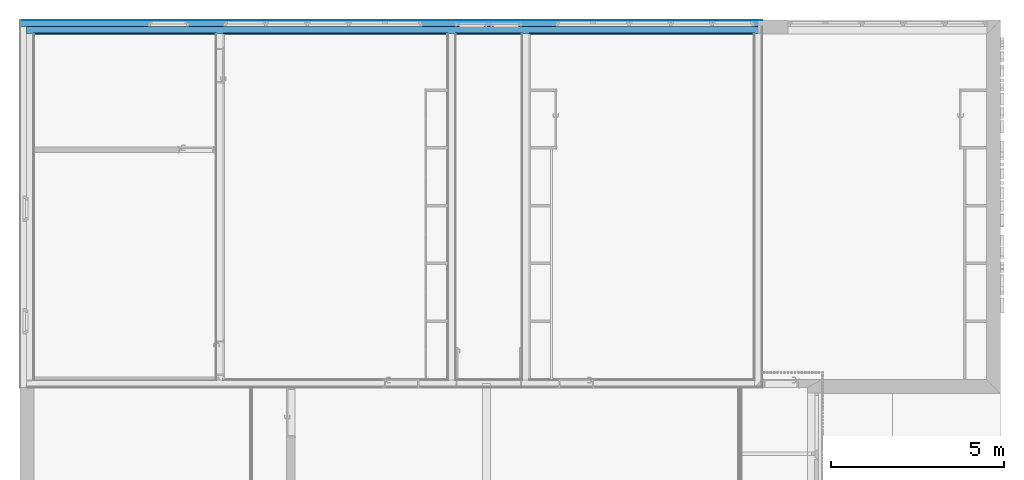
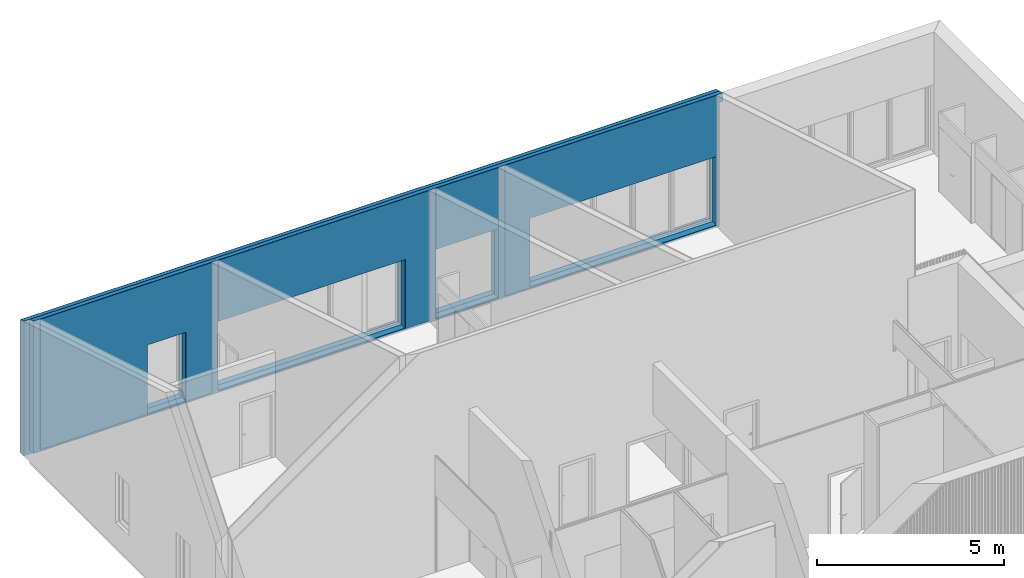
# One storey, part 18 of 34: 4 building element parts, 4 openings, 1 element without a shape of its own.
"""IFC2X3 building model written with IfcOpenShell, lengths in metres."""

from ifc_helpers import new_model, entity, si_unit, converted_unit, derived_unit, money_unit, direction, frame, origin_with_axes, origin_2d_with_axis, place, context, subcontext, project, spatial, polyline, rectangle, outline, extrude, boolean, faceted_brep, material, type_object, element, aggregate, save


model = new_model("IFC2X3")

# Units and contexts
model_context = context("Model", 3, precision=1e-05, world=origin_with_axes(), true_north=direction((0.0, 1.0)))
body_context = subcontext(model_context, "Body", "Model", "MODEL_VIEW")
ifc_project = project(units=[si_unit("LENGTHUNIT", "METRE"), si_unit("AREAUNIT", "SQUARE_METRE"), si_unit("VOLUMEUNIT", "CUBIC_METRE"), converted_unit("PLANEANGLEUNIT", "DEGREE", entity("IfcPlaneAngleMeasure", 0.0174532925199), si_unit("PLANEANGLEUNIT", "RADIAN"), dimensions=[0, 0, 0, 0, 0, 0, 0]), money_unit("CHF"), converted_unit("TIMEUNIT", "Year", entity("IfcTimeMeasure", 31556926.0), si_unit("TIMEUNIT", "SECOND"), dimensions=[0, 0, 1, 0, 0, 0, 0]), si_unit("MASSUNIT", "GRAM", prefix="KILO"), si_unit("THERMODYNAMICTEMPERATUREUNIT", "DEGREE_CELSIUS"), si_unit("LUMINOUSINTENSITYUNIT", "LUMEN"), si_unit("ENERGYUNIT", "JOULE", prefix="MEGA"), derived_unit("THERMALCONDUCTANCEUNIT", [(si_unit("POWERUNIT", "WATT"), 1), (si_unit("LENGTHUNIT", "METRE"), -1), (si_unit("THERMODYNAMICTEMPERATUREUNIT", "KELVIN"), -1)]), derived_unit("SPECIFICHEATCAPACITYUNIT", [(si_unit("ENERGYUNIT", "JOULE"), 1), (si_unit("MASSUNIT", "GRAM", prefix="KILO"), -1), (si_unit("THERMODYNAMICTEMPERATUREUNIT", "KELVIN"), -1)]), derived_unit("MASSDENSITYUNIT", [(si_unit("MASSUNIT", "GRAM", prefix="KILO"), 1), (si_unit("VOLUMEUNIT", "CUBIC_METRE"), -1)])], contexts=[model_context])

# Site, building, storey
site_placement = place(None, origin_with_axes())
site = spatial("IfcSite", under=ifc_project, at=site_placement, Name="Site", CompositionType="ELEMENT")
building_placement = place(site_placement, origin_with_axes())
building = spatial("IfcBuilding", under=site, at=building_placement, Name="Bâtiment", CompositionType="ELEMENT")
storey_placement = place(building_placement, origin_with_axes())
storey = spatial("IfcBuildingStorey", under=building, at=storey_placement, Name="Rez-de-chaussée", CompositionType="ELEMENT", Elevation=0.0)

# Wall, openings, building element parts
wall_type = type_object("IfcWallType", Name="Mur 20cm + iso 18 + enduit  410", PredefinedType="NOTDEFINED")
wall_placement = place(storey_placement, frame((11.1494697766, 25.2201256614, -0.21), z_axis=(0.0, 0.0, 1.0), x_axis=(1.0, 0.0, 0.0)))
wall = element("IfcWall", 1, at=wall_placement, inside=storey, type_object=wall_type, Name="Mur ext 20+18isolant")
opening_1_placement = place(wall_placement, frame((18.07, 0.0, 0.21), z_axis=(0.0, 0.0, 1.0), x_axis=(1.0, 0.0, 0.0)))
element("IfcOpeningElement", 2, at=opening_1_placement, cuts=wall, Name="FENETRE-005", context=body_context, shape_type="SweptSolid", body=[
    extrude(rectangle(XDim=5.76, YDim=2.25, at=origin_2d_with_axis()), frame((0.0, 0.2, 1.125), z_axis=(0.0, 1.0, 0.0), x_axis=(1.0, 0.0, 0.0)), (0.0, 0.0, -1.0), 0.73),
    extrude(rectangle(XDim=5.76, YDim=2.25, at=origin_2d_with_axis()), frame((0.0, 0.2, 1.125), z_axis=(0.0, -1.0, 0.0), x_axis=(1.0, 0.0, 0.0)), (0.0, 0.0, -1.0), 0.5),
])
opening_2_placement = place(wall_placement, frame((8.47, 0.0, 0.21), z_axis=(0.0, 0.0, 1.0), x_axis=(1.0, 0.0, 0.0)))
element("IfcOpeningElement", 3, at=opening_2_placement, cuts=wall, Name="FENETRE-005", context=body_context, shape_type="SweptSolid", body=[
    extrude(rectangle(XDim=5.76, YDim=2.25, at=origin_2d_with_axis()), frame((0.0, 0.2, 1.125), z_axis=(0.0, -1.0, 0.0), x_axis=(-1.0, 0.0, 0.0)), (0.0, 0.0, 1.0), 0.73),
    extrude(rectangle(XDim=5.76, YDim=2.25, at=origin_2d_with_axis()), frame((0.0, 0.2, 1.125), z_axis=(0.0, 1.0, 0.0), x_axis=(-1.0, 0.0, 0.0)), (0.0, 0.0, 1.0), 0.5),
])
opening_3_placement = place(wall_placement, frame((4.0, 0.0, 0.21), z_axis=(0.0, 0.0, 1.0), x_axis=(1.0, 0.0, 0.0)))
element("IfcOpeningElement", 4, at=opening_3_placement, cuts=wall, Name="FENETRE-005", context=body_context, shape_type="SweptSolid", body=[
    extrude(rectangle(XDim=1.18, YDim=2.25, at=origin_2d_with_axis()), frame((0.0, 0.2, 1.125), z_axis=(0.0, -1.0, 0.0), x_axis=(-1.0, 0.0, 0.0)), (0.0, 0.0, 1.0), 0.73),
    extrude(rectangle(XDim=1.18, YDim=2.25, at=origin_2d_with_axis()), frame((0.0, 0.2, 1.125), z_axis=(0.0, 1.0, 0.0), x_axis=(-1.0, 0.0, 0.0)), (0.0, 0.0, 1.0), 0.5),
])
opening_4_placement = place(wall_placement, frame((13.2600628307, 0.0, 0.21), z_axis=(0.0, 0.0, 1.0), x_axis=(1.0, 0.0, 0.0)))
element("IfcOpeningElement", 5, at=opening_4_placement, cuts=wall, Name="PORTE-PP90 A2 - PF1/2H", context=body_context, shape_type="SweptSolid", body=[
    extrude(rectangle(XDim=1.93987433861, YDim=2.25, at=origin_2d_with_axis()), frame((0.0, 0.2, 1.125), z_axis=(0.0, 1.0, 0.0), x_axis=(1.0, 0.0, 0.0)), (0.0, 0.0, -1.0), 0.73),
    extrude(rectangle(XDim=1.93987433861, YDim=2.25, at=origin_2d_with_axis()), frame((0.0, 0.2, 1.125), z_axis=(0.0, -1.0, 0.0), x_axis=(1.0, 0.0, 0.0)), (0.0, 0.0, -1.0), 0.5),
])
ifc_material_1 = material(Name="Finition int - Enduit plâtre")
building_element_part_1_placement = place(wall_placement, origin_with_axes())
building_element_part_1 = element("IfcBuildingElementPart", 6, at=building_element_part_1_placement, material=ifc_material_1, Name="Finition int - Enduit plâtre", context=body_context, shape_type="CSG", body=[
    boolean("DIFFERENCE", boolean("DIFFERENCE", boolean("DIFFERENCE", boolean("DIFFERENCE", boolean("DIFFERENCE", boolean("DIFFERENCE", extrude(outline(polyline([(-0.29, -0.12), (21.17, -0.12), (21.17, -0.1), (-0.29, -0.1), (-0.29, -0.12)])), origin_with_axes(), (0.0, 0.0, 1.0), 5.17), faceted_brep([(-0.29, -0.12, 5.17), (-0.29, -0.12, 0.0), (21.17, -0.12, 0.0), (21.17, -0.12, 5.17), (14.43, -0.12, 0.2), (14.43, -0.12, 4.45417566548), (20.95, -0.12, 4.45417566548), (20.95, -0.12, 0.2), (12.29, -0.12, 0.2), (12.29, -0.12, 4.45417566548), (14.23, -0.12, 4.45417566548), (14.23, -0.12, 0.2), (5.59, -0.12, 0.2), (5.59, -0.12, 4.45417566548), (12.09, -0.12, 4.45417566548), (12.09, -0.12, 0.2), (0.1, -0.12, 0.2), (0.1, -0.12, 4.45417566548), (5.39, -0.12, 4.45417566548), (5.39, -0.12, 0.2), (-0.29, -0.1, 5.17), (-0.29, -0.1, 0.0), (21.17, -0.1, 0.0), (21.17, -0.1, 5.17), (14.43, -0.1, 0.2), (14.43, -0.1, 4.44817566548), (20.95, -0.1, 4.44817566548), (20.95, -0.1, 0.2), (12.29, -0.1, 0.2), (12.29, -0.1, 4.44817566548), (14.23, -0.1, 4.44817566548), (14.23, -0.1, 0.2), (5.59, -0.1, 0.2), (5.59, -0.1, 4.44817566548), (12.09, -0.1, 4.44817566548), (12.09, -0.1, 0.2), (0.1, -0.1, 0.2), (0.1, -0.1, 4.44817566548), (5.39, -0.1, 4.44817566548), (5.39, -0.1, 0.2)], [[[0, 1, 2, 3], [4, 5, 6, 7], [8, 9, 10, 11], [12, 13, 14, 15], [16, 17, 18, 19]], [[20, 21, 1, 0]], [[2, 1, 21, 22]], [[3, 2, 22, 23]], [[20, 0, 3, 23]], [[24, 25, 5, 4]], [[25, 26, 6, 5]], [[26, 27, 7, 6]], [[27, 24, 4, 7]], [[28, 29, 9, 8]], [[29, 30, 10, 9]], [[30, 31, 11, 10]], [[31, 28, 8, 11]], [[32, 33, 13, 12]], [[33, 34, 14, 13]], [[34, 35, 15, 14]], [[35, 32, 12, 15]], [[36, 37, 17, 16]], [[37, 38, 18, 17]], [[38, 39, 19, 18]], [[39, 36, 16, 19]], [[23, 22, 21, 20], [24, 27, 26, 25], [28, 31, 30, 29], [32, 35, 34, 33], [36, 39, 38, 37]]])), faceted_brep([(-0.29, -0.1, 5.17), (-0.29, -0.1, 0.0), (21.17, -0.1, 0.0), (21.17, -0.1, 5.17), (14.43, -0.1, 4.44817566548), (20.95, -0.1, 4.44817566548), (21.15, -0.1, 4.44817566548), (21.15, -0.1, 4.17), (21.05, -0.1, 4.17), (21.05, -0.1, 0.13), (-0.1, -0.1, 0.13), (-0.1, -0.1, 4.44817566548), (0.1, -0.1, 4.44817566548), (5.39, -0.1, 4.44817566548), (5.59, -0.1, 4.44817566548), (12.09, -0.1, 4.44817566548), (12.29, -0.1, 4.44817566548), (14.23, -0.1, 4.44817566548), (-0.29, 0.1, 5.17), (-0.29, 0.1, 0.0), (21.17, 0.1, 0.0), (21.17, 0.1, 5.17), (-0.1, 0.1, 4.38817566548), (21.15, 0.1, 4.38817566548), (21.15, 0.1, 4.17), (21.05, 0.1, 4.17), (21.05, 0.1, 0.13), (-0.1, 0.1, 0.13)], [[[0, 1, 2, 3], [4, 5, 6, 7, 8, 9, 10, 11, 12, 13, 14, 15, 16, 17]], [[18, 19, 1, 0]], [[2, 1, 19, 20]], [[3, 2, 20, 21]], [[18, 0, 3, 21]], [[22, 23, 6, 5, 4, 17, 16, 15, 14, 13, 12, 11]], [[23, 24, 7, 6]], [[24, 25, 8, 7]], [[25, 26, 9, 8]], [[26, 27, 10, 9]], [[27, 22, 11, 10]], [[21, 20, 19, 18], [25, 24, 23, 22, 27, 26]]])), faceted_brep([(21.05, 0.28, 0.13), (21.05, 0.28, 4.17), (21.17, 0.28, 4.17), (21.17, 0.28, 0.0), (21.05, 0.28, 0.0), (21.05, 0.1, 0.13), (21.05, 0.1, 4.17), (21.17, 0.1, 4.17), (21.15, 0.1, 4.17), (21.17, 0.1, 0.0), (21.05, 0.1, 0.0)], [[[0, 1, 2, 3, 4]], [[1, 0, 5, 6]], [[7, 2, 1, 6, 8]], [[2, 7, 9, 3]], [[10, 4, 3, 9]], [[4, 10, 5, 0]], [[5, 10, 9, 7, 8, 6]]])), faceted_brep([(21.17, 0.1, 4.38817566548), (21.17, 0.28, 4.33417566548), (21.17, 0.28, 5.17), (21.17, 0.1, 5.17), (-0.28, 0.28, 4.33417566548), (21.15, 0.1, 4.38817566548), (-0.1, 0.1, 4.38817566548), (-0.28, 0.1, 4.38817566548), (-0.28, 0.28, 0.0), (-0.29, 0.28, 0.0), (-0.29, 0.28, 5.17), (-0.29, 0.1, 5.17), (-0.29, 0.1, 0.0), (-0.28, 0.1, 0.0)], [[[0, 1, 2, 3]], [[4, 1, 0, 5, 6, 7]], [[4, 8, 9, 10, 2, 1]], [[10, 11, 3, 2]], [[5, 0, 3, 11, 12, 13, 7, 6]], [[8, 4, 7, 13]], [[8, 13, 12, 9]], [[10, 9, 12, 11]]])), faceted_brep([(21.05, 0.29, 0.13), (21.05, 0.290000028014, 4.17), (21.17, 0.290000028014, 4.17), (21.17, 0.29, 0.0), (21.05, 0.29, 0.0), (21.05, 0.28, 0.13), (21.05, 0.28, 4.17), (21.17, 0.28, 4.17), (21.17, 0.28, 0.0), (21.05, 0.28, 0.0)], [[[0, 1, 2, 3, 4]], [[1, 0, 5, 6]], [[7, 2, 1, 6]], [[2, 7, 8, 3]], [[9, 4, 3, 8]], [[0, 4, 9, 5]], [[5, 9, 8, 7, 6]]])), faceted_brep([(21.17, 0.28, 4.33417566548), (21.17, 0.290000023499, 4.33117565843), (21.17, 0.29, 5.17), (21.17, 0.28, 5.17), (-0.290000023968, 0.29, 4.33117566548), (-0.28, 0.28, 4.33417566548), (-0.290000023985, 0.28, 4.33417566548), (-0.29, 0.29, 5.17), (-0.29, 0.28, 5.17)], [[[0, 1, 2, 3]], [[4, 1, 0, 5, 6]], [[1, 4, 7, 2]], [[7, 8, 3, 2]], [[5, 0, 3, 8, 6]], [[4, 6, 8, 7]]])),
])
ifc_material_2 = material(Name="Béton armé (Coulé)")
building_element_part_2_placement = place(wall_placement, origin_with_axes())
building_element_part_2 = element("IfcBuildingElementPart", 7, at=building_element_part_2_placement, material=ifc_material_2, Name="Béton armé (Coulé)", context=body_context, shape_type="CSG", body=[
    boolean("DIFFERENCE", boolean("DIFFERENCE", boolean("DIFFERENCE", boolean("DIFFERENCE", boolean("DIFFERENCE", boolean("DIFFERENCE", extrude(outline(polyline([(-0.29, -0.1), (21.17, -0.1), (21.17, 0.1), (-0.29, 0.1), (-0.29, -0.1)])), origin_with_axes(), (0.0, 0.0, 1.0), 5.17), faceted_brep([(-0.29, -0.12, 5.17), (-0.29, -0.12, 0.0), (21.17, -0.12, 0.0), (21.17, -0.12, 5.17), (14.43, -0.12, 0.2), (14.43, -0.12, 4.45417566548), (20.95, -0.12, 4.45417566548), (20.95, -0.12, 0.2), (12.29, -0.12, 0.2), (12.29, -0.12, 4.45417566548), (14.23, -0.12, 4.45417566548), (14.23, -0.12, 0.2), (5.59, -0.12, 0.2), (5.59, -0.12, 4.45417566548), (12.09, -0.12, 4.45417566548), (12.09, -0.12, 0.2), (0.1, -0.12, 0.2), (0.1, -0.12, 4.45417566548), (5.39, -0.12, 4.45417566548), (5.39, -0.12, 0.2), (-0.29, -0.1, 5.17), (-0.29, -0.1, 0.0), (21.17, -0.1, 0.0), (21.17, -0.1, 5.17), (14.43, -0.1, 0.2), (14.43, -0.1, 4.44817566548), (20.95, -0.1, 4.44817566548), (20.95, -0.1, 0.2), (12.29, -0.1, 0.2), (12.29, -0.1, 4.44817566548), (14.23, -0.1, 4.44817566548), (14.23, -0.1, 0.2), (5.59, -0.1, 0.2), (5.59, -0.1, 4.44817566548), (12.09, -0.1, 4.44817566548), (12.09, -0.1, 0.2), (0.1, -0.1, 0.2), (0.1, -0.1, 4.44817566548), (5.39, -0.1, 4.44817566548), (5.39, -0.1, 0.2)], [[[0, 1, 2, 3], [4, 5, 6, 7], [8, 9, 10, 11], [12, 13, 14, 15], [16, 17, 18, 19]], [[20, 21, 1, 0]], [[2, 1, 21, 22]], [[3, 2, 22, 23]], [[20, 0, 3, 23]], [[24, 25, 5, 4]], [[25, 26, 6, 5]], [[26, 27, 7, 6]], [[27, 24, 4, 7]], [[28, 29, 9, 8]], [[29, 30, 10, 9]], [[30, 31, 11, 10]], [[31, 28, 8, 11]], [[32, 33, 13, 12]], [[33, 34, 14, 13]], [[34, 35, 15, 14]], [[35, 32, 12, 15]], [[36, 37, 17, 16]], [[37, 38, 18, 17]], [[38, 39, 19, 18]], [[39, 36, 16, 19]], [[23, 22, 21, 20], [24, 27, 26, 25], [28, 31, 30, 29], [32, 35, 34, 33], [36, 39, 38, 37]]])), faceted_brep([(-0.29, -0.1, 5.17), (-0.29, -0.1, 0.0), (21.17, -0.1, 0.0), (21.17, -0.1, 5.17), (14.43, -0.1, 4.44817566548), (20.95, -0.1, 4.44817566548), (21.15, -0.1, 4.44817566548), (21.15, -0.1, 4.17), (21.05, -0.1, 4.17), (21.05, -0.1, 0.13), (-0.1, -0.1, 0.13), (-0.1, -0.1, 4.44817566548), (0.1, -0.1, 4.44817566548), (5.39, -0.1, 4.44817566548), (5.59, -0.1, 4.44817566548), (12.09, -0.1, 4.44817566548), (12.29, -0.1, 4.44817566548), (14.23, -0.1, 4.44817566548), (-0.29, 0.1, 5.17), (-0.29, 0.1, 0.0), (21.17, 0.1, 0.0), (21.17, 0.1, 5.17), (-0.1, 0.1, 4.38817566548), (21.15, 0.1, 4.38817566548), (21.15, 0.1, 4.17), (21.05, 0.1, 4.17), (21.05, 0.1, 0.13), (-0.1, 0.1, 0.13)], [[[0, 1, 2, 3], [4, 5, 6, 7, 8, 9, 10, 11, 12, 13, 14, 15, 16, 17]], [[18, 19, 1, 0]], [[2, 1, 19, 20]], [[3, 2, 20, 21]], [[18, 0, 3, 21]], [[22, 23, 6, 5, 4, 17, 16, 15, 14, 13, 12, 11]], [[23, 24, 7, 6]], [[24, 25, 8, 7]], [[25, 26, 9, 8]], [[26, 27, 10, 9]], [[27, 22, 11, 10]], [[21, 20, 19, 18], [25, 24, 23, 22, 27, 26]]])), faceted_brep([(21.05, 0.28, 0.13), (21.05, 0.28, 4.17), (21.17, 0.28, 4.17), (21.17, 0.28, 0.0), (21.05, 0.28, 0.0), (21.05, 0.1, 0.13), (21.05, 0.1, 4.17), (21.17, 0.1, 4.17), (21.15, 0.1, 4.17), (21.17, 0.1, 0.0), (21.05, 0.1, 0.0)], [[[0, 1, 2, 3, 4]], [[1, 0, 5, 6]], [[7, 2, 1, 6, 8]], [[2, 7, 9, 3]], [[10, 4, 3, 9]], [[4, 10, 5, 0]], [[5, 10, 9, 7, 8, 6]]])), faceted_brep([(21.17, 0.1, 4.38817566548), (21.17, 0.28, 4.33417566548), (21.17, 0.28, 5.17), (21.17, 0.1, 5.17), (-0.28, 0.28, 4.33417566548), (21.15, 0.1, 4.38817566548), (-0.1, 0.1, 4.38817566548), (-0.28, 0.1, 4.38817566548), (-0.28, 0.28, 0.0), (-0.29, 0.28, 0.0), (-0.29, 0.28, 5.17), (-0.29, 0.1, 5.17), (-0.29, 0.1, 0.0), (-0.28, 0.1, 0.0)], [[[0, 1, 2, 3]], [[4, 1, 0, 5, 6, 7]], [[4, 8, 9, 10, 2, 1]], [[10, 11, 3, 2]], [[5, 0, 3, 11, 12, 13, 7, 6]], [[8, 4, 7, 13]], [[8, 13, 12, 9]], [[10, 9, 12, 11]]])), faceted_brep([(21.05, 0.29, 0.13), (21.05, 0.290000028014, 4.17), (21.17, 0.290000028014, 4.17), (21.17, 0.29, 0.0), (21.05, 0.29, 0.0), (21.05, 0.28, 0.13), (21.05, 0.28, 4.17), (21.17, 0.28, 4.17), (21.17, 0.28, 0.0), (21.05, 0.28, 0.0)], [[[0, 1, 2, 3, 4]], [[1, 0, 5, 6]], [[7, 2, 1, 6]], [[2, 7, 8, 3]], [[9, 4, 3, 8]], [[0, 4, 9, 5]], [[5, 9, 8, 7, 6]]])), faceted_brep([(21.17, 0.28, 4.33417566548), (21.17, 0.290000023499, 4.33117565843), (21.17, 0.29, 5.17), (21.17, 0.28, 5.17), (-0.290000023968, 0.29, 4.33117566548), (-0.28, 0.28, 4.33417566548), (-0.290000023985, 0.28, 4.33417566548), (-0.29, 0.29, 5.17), (-0.29, 0.28, 5.17)], [[[0, 1, 2, 3]], [[4, 1, 0, 5, 6]], [[1, 4, 7, 2]], [[7, 8, 3, 2]], [[5, 0, 3, 8, 6]], [[4, 6, 8, 7]]])),
])
ifc_material_3 = material(Name="Isolation - Fibres de bois")
building_element_part_3_placement = place(wall_placement, origin_with_axes())
building_element_part_3 = element("IfcBuildingElementPart", 8, at=building_element_part_3_placement, material=ifc_material_3, Name="Isolation - Fibres de bois", context=body_context, shape_type="CSG", body=[
    boolean("DIFFERENCE", boolean("DIFFERENCE", boolean("DIFFERENCE", boolean("DIFFERENCE", boolean("DIFFERENCE", boolean("DIFFERENCE", extrude(outline(polyline([(-0.29, 0.1), (21.17, 0.1), (21.17, 0.28), (-0.29, 0.28), (-0.29, 0.1)])), origin_with_axes(), (0.0, 0.0, 1.0), 5.17), faceted_brep([(-0.29, -0.12, 5.17), (-0.29, -0.12, 0.0), (21.17, -0.12, 0.0), (21.17, -0.12, 5.17), (14.43, -0.12, 0.2), (14.43, -0.12, 4.45417566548), (20.95, -0.12, 4.45417566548), (20.95, -0.12, 0.2), (12.29, -0.12, 0.2), (12.29, -0.12, 4.45417566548), (14.23, -0.12, 4.45417566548), (14.23, -0.12, 0.2), (5.59, -0.12, 0.2), (5.59, -0.12, 4.45417566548), (12.09, -0.12, 4.45417566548), (12.09, -0.12, 0.2), (0.1, -0.12, 0.2), (0.1, -0.12, 4.45417566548), (5.39, -0.12, 4.45417566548), (5.39, -0.12, 0.2), (-0.29, -0.1, 5.17), (-0.29, -0.1, 0.0), (21.17, -0.1, 0.0), (21.17, -0.1, 5.17), (14.43, -0.1, 0.2), (14.43, -0.1, 4.44817566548), (20.95, -0.1, 4.44817566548), (20.95, -0.1, 0.2), (12.29, -0.1, 0.2), (12.29, -0.1, 4.44817566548), (14.23, -0.1, 4.44817566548), (14.23, -0.1, 0.2), (5.59, -0.1, 0.2), (5.59, -0.1, 4.44817566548), (12.09, -0.1, 4.44817566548), (12.09, -0.1, 0.2), (0.1, -0.1, 0.2), (0.1, -0.1, 4.44817566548), (5.39, -0.1, 4.44817566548), (5.39, -0.1, 0.2)], [[[0, 1, 2, 3], [4, 5, 6, 7], [8, 9, 10, 11], [12, 13, 14, 15], [16, 17, 18, 19]], [[20, 21, 1, 0]], [[2, 1, 21, 22]], [[3, 2, 22, 23]], [[20, 0, 3, 23]], [[24, 25, 5, 4]], [[25, 26, 6, 5]], [[26, 27, 7, 6]], [[27, 24, 4, 7]], [[28, 29, 9, 8]], [[29, 30, 10, 9]], [[30, 31, 11, 10]], [[31, 28, 8, 11]], [[32, 33, 13, 12]], [[33, 34, 14, 13]], [[34, 35, 15, 14]], [[35, 32, 12, 15]], [[36, 37, 17, 16]], [[37, 38, 18, 17]], [[38, 39, 19, 18]], [[39, 36, 16, 19]], [[23, 22, 21, 20], [24, 27, 26, 25], [28, 31, 30, 29], [32, 35, 34, 33], [36, 39, 38, 37]]])), faceted_brep([(-0.29, -0.1, 5.17), (-0.29, -0.1, 0.0), (21.17, -0.1, 0.0), (21.17, -0.1, 5.17), (14.43, -0.1, 4.44817566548), (20.95, -0.1, 4.44817566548), (21.15, -0.1, 4.44817566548), (21.15, -0.1, 4.17), (21.05, -0.1, 4.17), (21.05, -0.1, 0.13), (-0.1, -0.1, 0.13), (-0.1, -0.1, 4.44817566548), (0.1, -0.1, 4.44817566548), (5.39, -0.1, 4.44817566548), (5.59, -0.1, 4.44817566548), (12.09, -0.1, 4.44817566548), (12.29, -0.1, 4.44817566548), (14.23, -0.1, 4.44817566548), (-0.29, 0.1, 5.17), (-0.29, 0.1, 0.0), (21.17, 0.1, 0.0), (21.17, 0.1, 5.17), (-0.1, 0.1, 4.38817566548), (21.15, 0.1, 4.38817566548), (21.15, 0.1, 4.17), (21.05, 0.1, 4.17), (21.05, 0.1, 0.13), (-0.1, 0.1, 0.13)], [[[0, 1, 2, 3], [4, 5, 6, 7, 8, 9, 10, 11, 12, 13, 14, 15, 16, 17]], [[18, 19, 1, 0]], [[2, 1, 19, 20]], [[3, 2, 20, 21]], [[18, 0, 3, 21]], [[22, 23, 6, 5, 4, 17, 16, 15, 14, 13, 12, 11]], [[23, 24, 7, 6]], [[24, 25, 8, 7]], [[25, 26, 9, 8]], [[26, 27, 10, 9]], [[27, 22, 11, 10]], [[21, 20, 19, 18], [25, 24, 23, 22, 27, 26]]])), faceted_brep([(21.05, 0.28, 0.13), (21.05, 0.28, 4.17), (21.17, 0.28, 4.17), (21.17, 0.28, 0.0), (21.05, 0.28, 0.0), (21.05, 0.1, 0.13), (21.05, 0.1, 4.17), (21.17, 0.1, 4.17), (21.15, 0.1, 4.17), (21.17, 0.1, 0.0), (21.05, 0.1, 0.0)], [[[0, 1, 2, 3, 4]], [[1, 0, 5, 6]], [[7, 2, 1, 6, 8]], [[2, 7, 9, 3]], [[10, 4, 3, 9]], [[4, 10, 5, 0]], [[5, 10, 9, 7, 8, 6]]])), faceted_brep([(21.17, 0.1, 4.38817566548), (21.17, 0.28, 4.33417566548), (21.17, 0.28, 5.17), (21.17, 0.1, 5.17), (-0.28, 0.28, 4.33417566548), (21.15, 0.1, 4.38817566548), (-0.1, 0.1, 4.38817566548), (-0.28, 0.1, 4.38817566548), (-0.28, 0.28, 0.0), (-0.29, 0.28, 0.0), (-0.29, 0.28, 5.17), (-0.29, 0.1, 5.17), (-0.29, 0.1, 0.0), (-0.28, 0.1, 0.0)], [[[0, 1, 2, 3]], [[4, 1, 0, 5, 6, 7]], [[4, 8, 9, 10, 2, 1]], [[10, 11, 3, 2]], [[5, 0, 3, 11, 12, 13, 7, 6]], [[8, 4, 7, 13]], [[8, 13, 12, 9]], [[10, 9, 12, 11]]])), faceted_brep([(21.05, 0.29, 0.13), (21.05, 0.290000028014, 4.17), (21.17, 0.290000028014, 4.17), (21.17, 0.29, 0.0), (21.05, 0.29, 0.0), (21.05, 0.28, 0.13), (21.05, 0.28, 4.17), (21.17, 0.28, 4.17), (21.17, 0.28, 0.0), (21.05, 0.28, 0.0)], [[[0, 1, 2, 3, 4]], [[1, 0, 5, 6]], [[7, 2, 1, 6]], [[2, 7, 8, 3]], [[9, 4, 3, 8]], [[0, 4, 9, 5]], [[5, 9, 8, 7, 6]]])), faceted_brep([(21.17, 0.28, 4.33417566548), (21.17, 0.290000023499, 4.33117565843), (21.17, 0.29, 5.17), (21.17, 0.28, 5.17), (-0.290000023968, 0.29, 4.33117566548), (-0.28, 0.28, 4.33417566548), (-0.290000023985, 0.28, 4.33417566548), (-0.29, 0.29, 5.17), (-0.29, 0.28, 5.17)], [[[0, 1, 2, 3]], [[4, 1, 0, 5, 6]], [[1, 4, 7, 2]], [[7, 8, 3, 2]], [[5, 0, 3, 8, 6]], [[4, 6, 8, 7]]])),
])
ifc_material_4 = material(Name="Finition int - Enduit minéral")
building_element_part_4_placement = place(wall_placement, origin_with_axes())
building_element_part_4 = element("IfcBuildingElementPart", 9, at=building_element_part_4_placement, material=ifc_material_4, Name="Finition int - Enduit minéral", context=body_context, shape_type="CSG", body=[
    boolean("DIFFERENCE", boolean("DIFFERENCE", boolean("DIFFERENCE", boolean("DIFFERENCE", boolean("DIFFERENCE", boolean("DIFFERENCE", extrude(outline(polyline([(-0.29, 0.28), (21.17, 0.28), (21.17, 0.29), (-0.29, 0.29), (-0.29, 0.28)])), origin_with_axes(), (0.0, 0.0, 1.0), 5.17), faceted_brep([(-0.29, -0.12, 5.17), (-0.29, -0.12, 0.0), (21.17, -0.12, 0.0), (21.17, -0.12, 5.17), (14.43, -0.12, 0.2), (14.43, -0.12, 4.45417566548), (20.95, -0.12, 4.45417566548), (20.95, -0.12, 0.2), (12.29, -0.12, 0.2), (12.29, -0.12, 4.45417566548), (14.23, -0.12, 4.45417566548), (14.23, -0.12, 0.2), (5.59, -0.12, 0.2), (5.59, -0.12, 4.45417566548), (12.09, -0.12, 4.45417566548), (12.09, -0.12, 0.2), (0.1, -0.12, 0.2), (0.1, -0.12, 4.45417566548), (5.39, -0.12, 4.45417566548), (5.39, -0.12, 0.2), (-0.29, -0.1, 5.17), (-0.29, -0.1, 0.0), (21.17, -0.1, 0.0), (21.17, -0.1, 5.17), (14.43, -0.1, 0.2), (14.43, -0.1, 4.44817566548), (20.95, -0.1, 4.44817566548), (20.95, -0.1, 0.2), (12.29, -0.1, 0.2), (12.29, -0.1, 4.44817566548), (14.23, -0.1, 4.44817566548), (14.23, -0.1, 0.2), (5.59, -0.1, 0.2), (5.59, -0.1, 4.44817566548), (12.09, -0.1, 4.44817566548), (12.09, -0.1, 0.2), (0.1, -0.1, 0.2), (0.1, -0.1, 4.44817566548), (5.39, -0.1, 4.44817566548), (5.39, -0.1, 0.2)], [[[0, 1, 2, 3], [4, 5, 6, 7], [8, 9, 10, 11], [12, 13, 14, 15], [16, 17, 18, 19]], [[20, 21, 1, 0]], [[2, 1, 21, 22]], [[3, 2, 22, 23]], [[20, 0, 3, 23]], [[24, 25, 5, 4]], [[25, 26, 6, 5]], [[26, 27, 7, 6]], [[27, 24, 4, 7]], [[28, 29, 9, 8]], [[29, 30, 10, 9]], [[30, 31, 11, 10]], [[31, 28, 8, 11]], [[32, 33, 13, 12]], [[33, 34, 14, 13]], [[34, 35, 15, 14]], [[35, 32, 12, 15]], [[36, 37, 17, 16]], [[37, 38, 18, 17]], [[38, 39, 19, 18]], [[39, 36, 16, 19]], [[23, 22, 21, 20], [24, 27, 26, 25], [28, 31, 30, 29], [32, 35, 34, 33], [36, 39, 38, 37]]])), faceted_brep([(-0.29, -0.1, 5.17), (-0.29, -0.1, 0.0), (21.17, -0.1, 0.0), (21.17, -0.1, 5.17), (14.43, -0.1, 4.44817566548), (20.95, -0.1, 4.44817566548), (21.15, -0.1, 4.44817566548), (21.15, -0.1, 4.17), (21.05, -0.1, 4.17), (21.05, -0.1, 0.13), (-0.1, -0.1, 0.13), (-0.1, -0.1, 4.44817566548), (0.1, -0.1, 4.44817566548), (5.39, -0.1, 4.44817566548), (5.59, -0.1, 4.44817566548), (12.09, -0.1, 4.44817566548), (12.29, -0.1, 4.44817566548), (14.23, -0.1, 4.44817566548), (-0.29, 0.1, 5.17), (-0.29, 0.1, 0.0), (21.17, 0.1, 0.0), (21.17, 0.1, 5.17), (-0.1, 0.1, 4.38817566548), (21.15, 0.1, 4.38817566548), (21.15, 0.1, 4.17), (21.05, 0.1, 4.17), (21.05, 0.1, 0.13), (-0.1, 0.1, 0.13)], [[[0, 1, 2, 3], [4, 5, 6, 7, 8, 9, 10, 11, 12, 13, 14, 15, 16, 17]], [[18, 19, 1, 0]], [[2, 1, 19, 20]], [[3, 2, 20, 21]], [[18, 0, 3, 21]], [[22, 23, 6, 5, 4, 17, 16, 15, 14, 13, 12, 11]], [[23, 24, 7, 6]], [[24, 25, 8, 7]], [[25, 26, 9, 8]], [[26, 27, 10, 9]], [[27, 22, 11, 10]], [[21, 20, 19, 18], [25, 24, 23, 22, 27, 26]]])), faceted_brep([(21.05, 0.28, 0.13), (21.05, 0.28, 4.17), (21.17, 0.28, 4.17), (21.17, 0.28, 0.0), (21.05, 0.28, 0.0), (21.05, 0.1, 0.13), (21.05, 0.1, 4.17), (21.17, 0.1, 4.17), (21.15, 0.1, 4.17), (21.17, 0.1, 0.0), (21.05, 0.1, 0.0)], [[[0, 1, 2, 3, 4]], [[1, 0, 5, 6]], [[7, 2, 1, 6, 8]], [[2, 7, 9, 3]], [[10, 4, 3, 9]], [[4, 10, 5, 0]], [[5, 10, 9, 7, 8, 6]]])), faceted_brep([(21.17, 0.1, 4.38817566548), (21.17, 0.28, 4.33417566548), (21.17, 0.28, 5.17), (21.17, 0.1, 5.17), (-0.28, 0.28, 4.33417566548), (21.15, 0.1, 4.38817566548), (-0.1, 0.1, 4.38817566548), (-0.28, 0.1, 4.38817566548), (-0.28, 0.28, 0.0), (-0.29, 0.28, 0.0), (-0.29, 0.28, 5.17), (-0.29, 0.1, 5.17), (-0.29, 0.1, 0.0), (-0.28, 0.1, 0.0)], [[[0, 1, 2, 3]], [[4, 1, 0, 5, 6, 7]], [[4, 8, 9, 10, 2, 1]], [[10, 11, 3, 2]], [[5, 0, 3, 11, 12, 13, 7, 6]], [[8, 4, 7, 13]], [[8, 13, 12, 9]], [[10, 9, 12, 11]]])), faceted_brep([(21.05, 0.29, 0.13), (21.05, 0.290000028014, 4.17), (21.17, 0.290000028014, 4.17), (21.17, 0.29, 0.0), (21.05, 0.29, 0.0), (21.05, 0.28, 0.13), (21.05, 0.28, 4.17), (21.17, 0.28, 4.17), (21.17, 0.28, 0.0), (21.05, 0.28, 0.0)], [[[0, 1, 2, 3, 4]], [[1, 0, 5, 6]], [[7, 2, 1, 6]], [[2, 7, 8, 3]], [[9, 4, 3, 8]], [[0, 4, 9, 5]], [[5, 9, 8, 7, 6]]])), faceted_brep([(21.17, 0.28, 4.33417566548), (21.17, 0.290000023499, 4.33117565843), (21.17, 0.29, 5.17), (21.17, 0.28, 5.17), (-0.290000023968, 0.29, 4.33117566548), (-0.28, 0.28, 4.33417566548), (-0.290000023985, 0.28, 4.33417566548), (-0.29, 0.29, 5.17), (-0.29, 0.28, 5.17)], [[[0, 1, 2, 3]], [[4, 1, 0, 5, 6]], [[1, 4, 7, 2]], [[7, 8, 3, 2]], [[5, 0, 3, 8, 6]], [[4, 6, 8, 7]]])),
])
aggregate(wall, [building_element_part_1, building_element_part_2, building_element_part_3, building_element_part_4])

save(model, "model.ifc")
